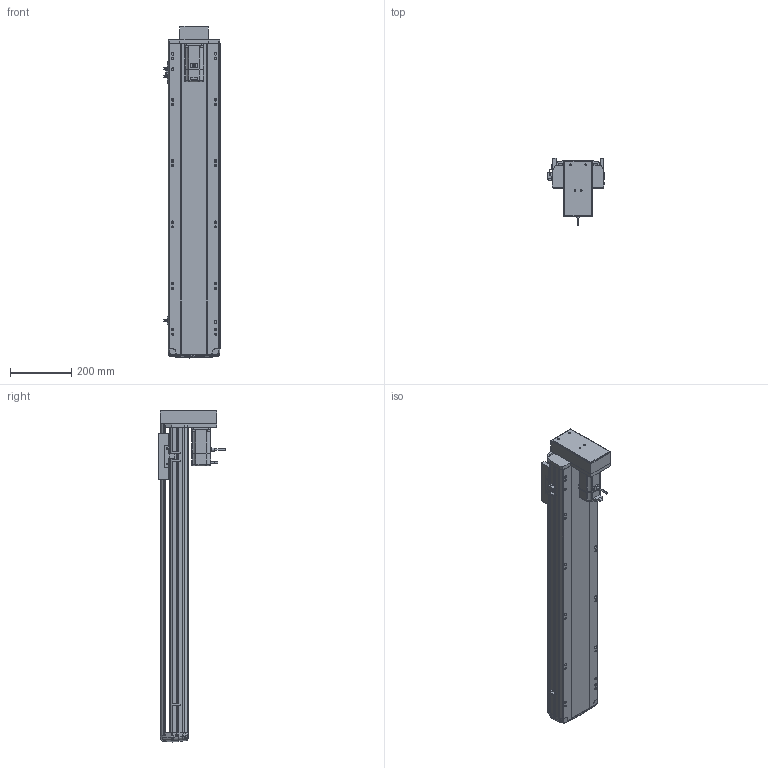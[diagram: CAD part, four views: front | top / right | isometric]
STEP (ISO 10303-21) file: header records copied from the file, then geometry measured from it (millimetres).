
FILE_DESCRIPTION (( 'STEP AP214' ), '1' );
FILE_NAME ('RTH17-XX-800-M-M40-C4.STEP', '2025-10-24T09:07:30', ( '' ), ( '' ), 'SwSTEP 2.0', 'SolidWorks 2018', '' );
FILE_SCHEMA (( 'AUTOMOTIVE_DESIGN' ));
Length unit declared in the file: millimetre
Products named in the file (10): N_RTH-BL-012 感应片(外置)^RTH17-XX-XX-M-M40-C4（方程式）; N_RTH17-M-011底座^RTH17-XX-XX-M-M40-C4（方程式）; N_RTH17-E-004丝杆螺母连接座^RTH17-XX-XX-M-M40-C4（方程式）; N_RTH17-GY-001P^RTH17-XX-XX-M-M40-C4（方程式）; N_RTH17-M-008-P40电机安装板下折^RTH17-XX-XX-M-M40-C4（方程式）; N_M40^RTH17-XX-XX-M-M40-C4（方程式）; N_RTH17-M-018盖子^RTH17-XX-XX-M-M40-C4（方程式）; N_RTH17-M-007上盖^RTH17-XX-XX-M-M40-C4（方程式）; N_OMRON EE-SX672 換覜ん^RTH17-XX-XX-M-M40-C4ㄗ源最宒ㄘ; RTH17-XX-800-M-M40-C4
Assembly tree (11 placements, depth 2):
  RTH17-XX-800-M-M40-C4
    N_RTH17-M-011底座^RTH17-XX-XX-M-M40-C4（方程式）
    N_RTH17-M-007上盖^RTH17-XX-XX-M-M40-C4（方程式）
    N_M40^RTH17-XX-XX-M-M40-C4（方程式）
    N_OMRON EE-SX672 換覜ん^RTH17-XX-XX-M-M40-C4ㄗ源最宒ㄘ  x3
    N_RTH-BL-012 感应片(外置)^RTH17-XX-XX-M-M40-C4（方程式）
    N_RTH17-M-008-P40电机安装板下折^RTH17-XX-XX-M-M40-C4（方程式）
    N_RTH17-M-018盖子^RTH17-XX-XX-M-M40-C4（方程式）
    N_RTH17-E-004丝杆螺母连接座^RTH17-XX-XX-M-M40-C4（方程式）
    N_RTH17-GY-001P^RTH17-XX-XX-M-M40-C4（方程式）
Bounding box: 183.5 x 219 x 1083.19 mm (x, y, z)
Volume: 8493716.7 mm3; surface area: 1217187.2 mm2
Topology: 10 solids, 12 shells, 1663 faces, 4644 edges, 3028 vertices
Faces by surface type: plane 832, cylinder 464, bspline 330, cone 28, torus 9
Entity records: 48672 total; most frequent: CARTESIAN_POINT 19660, ORIENTED_EDGE 6312, DIRECTION 5200, EDGE_CURVE 3160, VERTEX_POINT 2064, LINE 1774, VECTOR 1774, AXIS2_PLACEMENT_3D 1713
